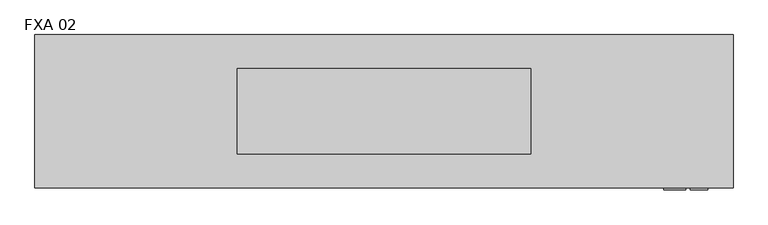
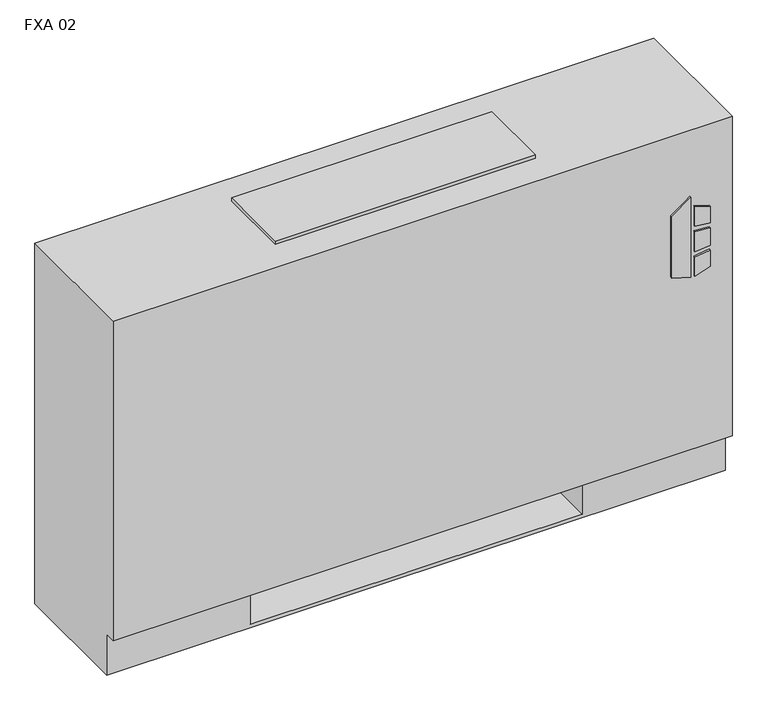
"""IFC4 building model written with IfcOpenShell, lengths in millimetres: proxy geometry, Vertical_Fan_Coil_Unit_-_FXA_-_IEC_-_4-Pipe_TS-FR_LH_2022 : FXA 02."""

from ifc_helpers import new_model, si_unit, point, frame, frame_2d, origin, place, context, project, spatial, polyline, circle_curve, trimmed, segment, composite_curve, outline, extrude, source, transform, mapped, element, save
from ifc_brep_helpers import plane_surface, revolved_surface, advanced_brep


def fxa_02_1721e887(model_context):
    return source(origin(), model_context, "Body", "SolidModel", [
        extrude(outline(polyline([(391.6086829, 569.9868862), (381.6606126, 602.1602728), (523.831537, 602.1602728), (500.8095309, 569.9868862), (391.6086829, 569.9868862)])), frame((0.0, 12.7, 0.0), z_axis=(0.0, 1.0, 0.0), x_axis=(0.0, 0.0, 1.0)), (0.0, 0.0, 1.0), 3.175),
        extrude(outline(polyline([(470.6079683, 608.9186058), (467.4055757, 635.0), (496.6344168, 635.0), (504.6988318, 608.9186058), (470.6079683, 608.9186058)])), frame((0.0, 12.7, 0.0), z_axis=(0.0, 1.0, 0.0), x_axis=(0.0, 0.0, 1.0)), (0.0, 0.0, 1.0), 3.175),
        extrude(outline(polyline([(418.7444414, 635.0), (415.0789404, 608.9186058), (381.6606126, 608.9186058), (390.2948498, 635.0), (418.7444414, 635.0)])), frame((0.0, 12.7, 0.0), z_axis=(0.0, 1.0, 0.0), x_axis=(0.0, 0.0, 1.0)), (0.0, 0.0, 1.0), 3.175),
        extrude(outline(polyline([(458.0596028, 635.0), (460.3414292, 608.9186058), (424.4038806, 608.9186058), (427.1451456, 635.0), (458.0596028, 635.0)])), frame((0.0, 12.7, 0.0), z_axis=(0.0, 1.0, 0.0), x_axis=(0.0, 0.0, 1.0)), (0.0, 0.0, 1.0), 3.175),
        extrude(outline(polyline([(552.45, 223.266), (552.45, 81.534), (431.8, 81.534), (431.8, 223.266), (552.45, 223.266)])), frame((0.0, 0.0, 327.025), z_axis=(0.0, 0.0, 1.0), x_axis=(1.0, 0.0, 0.0)), (0.0, 0.0, 1.0), 260.35),
        extrude(outline(composite_curve([segment(trimmed(circle_curve(frame_2d((-190.5, 130.175)), 9.525), [point((-200.025, 130.175))], [point((-180.975, 130.175))], False, "CARTESIAN"), True, "CONTINUOUS"), segment(trimmed(circle_curve(frame_2d((-190.5, 130.175)), 9.525), [point((-180.975, 130.175))], [point((-200.025, 130.175))], False, "CARTESIAN"), True, "CONTINUOUS")], self_intersect=False)), frame((0.0, 0.0, 101.6), z_axis=(0.0, 0.0, 1.0), x_axis=(1.0, 0.0, 0.0)), (0.0, 0.0, 1.0), 25.4),
        extrude(outline(polyline([(-285.75, 63.5), (-285.75, 196.85), (-127.0, 196.85), (-127.0, 63.5), (-285.75, 63.5)])), frame((0.0, 0.0, 127.0), z_axis=(0.0, 0.0, 1.0), x_axis=(1.0, 0.0, 0.0)), (0.0, 0.0, 1.0), 50.8),
        extrude(outline(composite_curve([segment(trimmed(circle_curve(frame_2d((117.475, 472.44)), 7.9375), [point((117.475, 480.3775))], [point((117.475, 464.5025))], False, "CARTESIAN"), True, "CONTINUOUS"), segment(trimmed(circle_curve(frame_2d((117.475, 472.44)), 7.9375), [point((117.475, 464.5025))], [point((117.475, 480.3775))], False, "CARTESIAN"), True, "CONTINUOUS")], self_intersect=False)), frame((-177.8, 0.0, 0.0), z_axis=(1.0, 0.0, 0.0), x_axis=(0.0, 1.0, 0.0)), (0.0, 0.0, 1.0), 50.8),
        extrude(outline(composite_curve([segment(trimmed(circle_curve(frame_2d((164.0586, 445.897)), 7.9375), [point((164.0586, 453.8345))], [point((164.0586, 437.9595))], False, "CARTESIAN"), True, "CONTINUOUS"), segment(trimmed(circle_curve(frame_2d((164.0586, 445.897)), 7.9375), [point((164.0586, 437.9595))], [point((164.0586, 453.8345))], False, "CARTESIAN"), True, "CONTINUOUS")], self_intersect=False)), frame((-177.8, 0.0, 0.0), z_axis=(1.0, 0.0, 0.0), x_axis=(0.0, 1.0, 0.0)), (0.0, 0.0, 1.0), 50.8),
        extrude(outline(composite_curve([segment(trimmed(circle_curve(frame_2d((130.175, 554.99)), 7.9502), [point((130.175, 562.9402))], [point((130.175, 547.0398))], False, "CARTESIAN"), True, "CONTINUOUS"), segment(trimmed(circle_curve(frame_2d((130.175, 554.99)), 7.9502), [point((130.175, 547.0398))], [point((130.175, 562.9402))], False, "CARTESIAN"), True, "CONTINUOUS")], self_intersect=False)), frame((-177.8, 0.0, 0.0), z_axis=(1.0, 0.0, 0.0), x_axis=(0.0, 1.0, 0.0)), (0.0, 0.0, 1.0), 50.8),
        extrude(outline(composite_curve([segment(trimmed(circle_curve(frame_2d((53.975, 416.56)), 7.9502), [point((53.975, 424.5102))], [point((53.975, 408.6098))], False, "CARTESIAN"), True, "CONTINUOUS"), segment(trimmed(circle_curve(frame_2d((53.975, 416.56)), 7.9502), [point((53.975, 408.6098))], [point((53.975, 424.5102))], False, "CARTESIAN"), True, "CONTINUOUS")], self_intersect=False)), frame((-177.8, 0.0, 0.0), z_axis=(1.0, 0.0, 0.0), x_axis=(0.0, 1.0, 0.0)), (0.0, 0.0, 1.0), 50.8),
        advanced_brep(
        [(673.1, 244.475, 641.35), (-368.3, 244.475, 641.35), (-368.3, 15.875, 641.35), (673.1, 15.875, 641.35), (-368.3, 244.475, 0.0), (673.1, 244.475, 0.0), (673.1, 34.925, 0.0), (-368.3, 34.925, 0.0), (431.8, 244.475, 73.025), (660.4, 244.475, 73.025), (660.4, 244.475, 628.65), (431.8, 244.475, 628.65), (431.8, 244.475, 414.8650565), (460.375, 244.475, 414.8650565), (460.375, 244.475, 385.2349435), (431.8, 244.475, 385.2349435), (431.8, 244.475, 287.3375), (460.375, 244.475, 287.3375), (460.375, 244.475, 258.7625), (431.8, 244.475, 258.7625), (431.8, 244.475, 141.2875), (460.375, 244.475, 141.2875), (460.375, 244.475, 112.7125), (431.8, 244.475, 112.7125), (-127.0, 244.475, 628.65), (-355.6, 244.475, 628.65), (-355.6, 244.475, 73.025), (-127.0, 244.475, 73.025), (-127.0, 244.475, 112.7125), (-155.575, 244.475, 112.7125), (-155.575, 244.475, 141.2875), (-127.0, 244.475, 141.2875), (-127.0, 244.475, 258.7625), (-155.575, 244.475, 258.7625), (-155.575, 244.475, 287.3375), (-127.0, 244.475, 287.3375), (-127.0, 244.475, 385.2349435), (-155.575, 244.475, 385.2349435), (-155.575, 244.475, 414.8650565), (-127.0, 244.475, 414.8650565), (450.0626, 244.475, 127.0), (438.9374, 244.475, 127.0), (450.0626, 244.475, 400.05), (438.9374, 244.475, 400.05), (450.0626, 244.475, 273.05), (438.9374, 244.475, 273.05), (-134.1374, 244.475, 127.0), (-145.2626, 244.475, 127.0), (-134.1374, 244.475, 273.05), (-145.2626, 244.475, 273.05), (-134.1374, 244.475, 400.05), (-145.2626, 244.475, 400.05), (-368.3, 34.925, 73.025), (-368.3, 15.875, 73.025), (673.1, 15.875, 73.025), (673.1, 34.925, 73.025), (-127.0, 34.925, 73.025), (-127.0, 219.075, 73.025), (431.8, 219.075, 73.025), (431.8, 34.925, 73.025), (431.8, 34.925, 6.35), (-127.0, 34.925, 6.35), (431.8, 41.275, 628.65), (660.4, 41.275, 628.65), (660.4, 41.275, 73.025), (431.8, 41.275, 73.025), (-127.0, 41.275, 628.65), (-127.0, 41.275, 73.025), (-355.6, 41.275, 73.025), (-355.6, 41.275, 628.65), (431.8, 219.075, 73.025), (431.8, 238.125, 112.7125), (431.8, 238.125, 141.2875), (431.8, 238.125, 258.7625), (431.8, 238.125, 287.3375), (431.8, 238.125, 385.2349435), (431.8, 238.125, 414.8650565), (-127.0, 219.075, 73.025), (-127.0, 238.125, 414.8650565), (-127.0, 238.125, 385.2349435), (-127.0, 238.125, 287.3375), (-127.0, 238.125, 258.7625), (-127.0, 238.125, 141.2875), (-127.0, 238.125, 112.7125), (-127.0, 219.075, 6.35), (431.8, 219.075, 6.35), (460.375, 238.125, 112.7125), (460.375, 238.125, 141.2875), (438.9374, 238.125, 127.0), (450.0626, 238.125, 127.0), (460.375, 238.125, 258.7625), (460.375, 238.125, 287.3375), (438.9374, 238.125, 273.05), (450.0626, 238.125, 273.05), (460.375, 238.125, 385.2349435), (460.375, 238.125, 414.8650565), (438.9374, 238.125, 400.05), (450.0626, 238.125, 400.05), (-155.575, 238.125, 141.2875), (-155.575, 238.125, 112.7125), (-145.2626, 238.125, 127.0), (-134.1374, 238.125, 127.0), (-155.575, 238.125, 287.3375), (-155.575, 238.125, 258.7625), (-145.2626, 238.125, 273.05), (-134.1374, 238.125, 273.05), (-155.575, 238.125, 414.8650565), (-155.575, 238.125, 385.2349435), (-145.2626, 238.125, 400.05), (-134.1374, 238.125, 400.05)],
        [
            (0, 1),
            (1, 2),
            (2, 3),
            (3, 0),
            (4, 5),
            (5, 6),
            (6, 7),
            (7, 4),
            (0, 5),
            (4, 1),
            (8, 9),
            (9, 10),
            (10, 11),
            (11, 12),
            (12, 13),
            (13, 14),
            (14, 15),
            (15, 16),
            (16, 17),
            (17, 18),
            (18, 19),
            (19, 20),
            (20, 21),
            (21, 22),
            (22, 23),
            (23, 8),
            (24, 25),
            (25, 26),
            (26, 27),
            (27, 28),
            (28, 29),
            (29, 30),
            (30, 31),
            (31, 32),
            (32, 33),
            (33, 34),
            (34, 35),
            (35, 36),
            (36, 37),
            (37, 38),
            (38, 39),
            (39, 24),
            (40, 41, circle_curve(frame((444.5, 244.475, 127.0), z_axis=(0.0, -1.0, 0.0), x_axis=(-1.0, 0.0, 0.0)), 5.5626)),
            (41, 40, circle_curve(frame((444.5, 244.475, 127.0), z_axis=(0.0, -1.0, 0.0), x_axis=(-1.0, 0.0, 0.0)), 5.5626)),
            (42, 43, circle_curve(frame((444.5, 244.475, 400.05), z_axis=(0.0, -1.0, 0.0), x_axis=(-1.0, 0.0, 0.0)), 5.5626)),
            (43, 42, circle_curve(frame((444.5, 244.475, 400.05), z_axis=(0.0, -1.0, 0.0), x_axis=(-1.0, 0.0, 0.0)), 5.5626)),
            (44, 45, circle_curve(frame((444.5, 244.475, 273.05), z_axis=(0.0, -1.0, 0.0), x_axis=(-1.0, 0.0, 0.0)), 5.5626)),
            (45, 44, circle_curve(frame((444.5, 244.475, 273.05), z_axis=(0.0, -1.0, 0.0), x_axis=(-1.0, 0.0, 0.0)), 5.5626)),
            (46, 47, circle_curve(frame((-139.7, 244.475, 127.0), z_axis=(0.0, -1.0, 0.0), x_axis=(-1.0, 0.0, 0.0)), 5.5626)),
            (47, 46, circle_curve(frame((-139.7, 244.475, 127.0), z_axis=(0.0, -1.0, 0.0), x_axis=(-1.0, 0.0, 0.0)), 5.5626)),
            (48, 49, circle_curve(frame((-139.7, 244.475, 273.05), z_axis=(0.0, -1.0, 0.0), x_axis=(-1.0, 0.0, 0.0)), 5.5626)),
            (49, 48, circle_curve(frame((-139.7, 244.475, 273.05), z_axis=(0.0, -1.0, 0.0), x_axis=(-1.0, 0.0, 0.0)), 5.5626)),
            (50, 51, circle_curve(frame((-139.7, 244.475, 400.05), z_axis=(0.0, -1.0, 0.0), x_axis=(-1.0, 0.0, 0.0)), 5.5626)),
            (51, 50, circle_curve(frame((-139.7, 244.475, 400.05), z_axis=(0.0, -1.0, 0.0), x_axis=(-1.0, 0.0, 0.0)), 5.5626)),
            (7, 52),
            (52, 53),
            (53, 2),
            (53, 54),
            (54, 3),
            (54, 55),
            (55, 6),
            (52, 56),
            (56, 57),
            (57, 58),
            (58, 59),
            (59, 55),
            (59, 60),
            (60, 61),
            (61, 56),
            (62, 63),
            (63, 64),
            (64, 65),
            (65, 62),
            (66, 67),
            (67, 68),
            (68, 69),
            (69, 66),
            (65, 70),
            (70, 8),
            (23, 71),
            (71, 72),
            (72, 20),
            (19, 73),
            (73, 74),
            (74, 16),
            (15, 75),
            (75, 76),
            (76, 12),
            (11, 62),
            (64, 9),
            (63, 10),
            (69, 25),
            (24, 66),
            (68, 26),
            (67, 77),
            (77, 27),
            (39, 78),
            (78, 79),
            (79, 36),
            (35, 80),
            (80, 81),
            (81, 32),
            (31, 82),
            (82, 83),
            (83, 28),
            (57, 84),
            (84, 85),
            (85, 58),
            (85, 60),
            (84, 61),
            (71, 86),
            (86, 87),
            (87, 72),
            (88, 89, circle_curve(frame((444.5, 238.125, 127.0), z_axis=(0.0, 1.0, 0.0), x_axis=(-1.0, 0.0, 0.0)), 5.5626)),
            (89, 88, circle_curve(frame((444.5, 238.125, 127.0), z_axis=(0.0, 1.0, 0.0), x_axis=(-1.0, 0.0, 0.0)), 5.5626)),
            (73, 90),
            (90, 91),
            (91, 74),
            (92, 93, circle_curve(frame((444.5, 238.125, 273.05), z_axis=(0.0, 1.0, 0.0), x_axis=(-1.0, 0.0, 0.0)), 5.5626)),
            (93, 92, circle_curve(frame((444.5, 238.125, 273.05), z_axis=(0.0, 1.0, 0.0), x_axis=(-1.0, 0.0, 0.0)), 5.5626)),
            (75, 94),
            (94, 95),
            (95, 76),
            (96, 97, circle_curve(frame((444.5, 238.125, 400.05), z_axis=(0.0, 1.0, 0.0), x_axis=(-1.0, 0.0, 0.0)), 5.5626)),
            (97, 96, circle_curve(frame((444.5, 238.125, 400.05), z_axis=(0.0, 1.0, 0.0), x_axis=(-1.0, 0.0, 0.0)), 5.5626)),
            (98, 99),
            (99, 83),
            (82, 98),
            (100, 101, circle_curve(frame((-139.7, 238.125, 127.0), z_axis=(0.0, 1.0, 0.0), x_axis=(-1.0, 0.0, 0.0)), 5.5626)),
            (101, 100, circle_curve(frame((-139.7, 238.125, 127.0), z_axis=(0.0, 1.0, 0.0), x_axis=(-1.0, 0.0, 0.0)), 5.5626)),
            (102, 103),
            (103, 81),
            (80, 102),
            (104, 105, circle_curve(frame((-139.7, 238.125, 273.05), z_axis=(0.0, 1.0, 0.0), x_axis=(-1.0, 0.0, 0.0)), 5.5626)),
            (105, 104, circle_curve(frame((-139.7, 238.125, 273.05), z_axis=(0.0, 1.0, 0.0), x_axis=(-1.0, 0.0, 0.0)), 5.5626)),
            (106, 107),
            (107, 79),
            (78, 106),
            (108, 109, circle_curve(frame((-139.7, 238.125, 400.05), z_axis=(0.0, 1.0, 0.0), x_axis=(-1.0, 0.0, 0.0)), 5.5626)),
            (109, 108, circle_curve(frame((-139.7, 238.125, 400.05), z_axis=(0.0, 1.0, 0.0), x_axis=(-1.0, 0.0, 0.0)), 5.5626)),
            (87, 21),
            (86, 22),
            (91, 17),
            (90, 18),
            (95, 13),
            (94, 14),
            (30, 98),
            (99, 29),
            (34, 102),
            (103, 33),
            (38, 106),
            (107, 37),
            (88, 41),
            (40, 89),
            (96, 43),
            (42, 97),
            (92, 45),
            (44, 93),
            (100, 47),
            (46, 101),
            (104, 49),
            (48, 105),
            (108, 51),
            (50, 109),
        ],
        [
            plane_surface(frame((-368.3, 244.475, 641.35), z_axis=(0.0, 0.0, 1.0), x_axis=(-1.0, 0.0, 0.0))),
            plane_surface(frame((-368.3, 244.475, 0.0), z_axis=(0.0, 0.0, -1.0), x_axis=(1.0, 0.0, 0.0))),
            plane_surface(frame((673.1, 244.475, 641.35), z_axis=(0.0, 1.0, 0.0), x_axis=(0.0, 0.0, -1.0))),
            plane_surface(frame((-368.3, 244.475, 641.35), z_axis=(-1.0, 0.0, 0.0), x_axis=(0.0, 0.0, -1.0))),
            plane_surface(frame((-368.3, 15.875, 641.35), z_axis=(0.0, -1.0, 0.0), x_axis=(0.0, 0.0, -1.0))),
            plane_surface(frame((673.1, 15.875, 641.35), z_axis=(1.0, 0.0, 0.0), x_axis=(0.0, 0.0, -1.0))),
            plane_surface(frame((-368.3, 15.875, 73.025), z_axis=(0.0, 0.0, -1.0), x_axis=(1.0, 0.0, 0.0))),
            plane_surface(frame((-368.3, 34.925, 73.025), z_axis=(0.0, -1.0, 0.0), x_axis=(1.0, 0.0, 0.0))),
            plane_surface(frame((431.8, 41.275, 628.65), z_axis=(0.0, 1.0, 0.0), x_axis=(0.0, 0.0, -1.0))),
            plane_surface(frame((431.8, 41.275, 628.65), z_axis=(1.0, 0.0, 0.0), x_axis=(0.0, 1.0, 0.0))),
            plane_surface(frame((431.8, 41.275, 73.025), z_axis=(0.0, 0.0, 1.0), x_axis=(0.0, 1.0, 0.0))),
            plane_surface(frame((660.4, 41.275, 73.025), z_axis=(-1.0, 0.0, 0.0), x_axis=(0.0, 1.0, 0.0))),
            plane_surface(frame((660.4, 41.275, 628.65), z_axis=(0.0, 0.0, -1.0), x_axis=(0.0, 1.0, 0.0))),
            plane_surface(frame((-127.0, 41.275, 628.65), z_axis=(0.0, 0.0, -1.0), x_axis=(0.0, 1.0, 0.0))),
            plane_surface(frame((-355.6, 41.275, 628.65), z_axis=(1.0, 0.0, 0.0), x_axis=(0.0, 1.0, 0.0))),
            plane_surface(frame((-355.6, 41.275, 73.025), z_axis=(0.0, 0.0, 1.0), x_axis=(0.0, 1.0, 0.0))),
            plane_surface(frame((-127.0, 41.275, 73.025), z_axis=(-1.0, 0.0, 0.0), x_axis=(0.0, 1.0, 0.0))),
            plane_surface(frame((431.8, 219.075, 73.025), z_axis=(0.0, -1.0, 0.0), x_axis=(0.0, 0.0, -1.0))),
            plane_surface(frame((431.8, 219.075, 73.025), z_axis=(-1.0, 0.0, 0.0), x_axis=(0.0, -1.0, 0.0))),
            plane_surface(frame((431.8, 219.075, 6.35), z_axis=(0.0, 0.0, 1.0), x_axis=(0.0, -1.0, 0.0))),
            plane_surface(frame((-127.0, 219.075, 6.35), z_axis=(1.0, 0.0, 0.0), x_axis=(0.0, -1.0, 0.0))),
            plane_surface(frame((460.375, 238.125, 141.2875), z_axis=(0.0, -1.0, 0.0), x_axis=(-1.0, 0.0, 0.0))),
            plane_surface(frame((431.8, 244.475, 141.2875), z_axis=(0.0, 0.0, 1.0), x_axis=(0.0, -1.0, 0.0))),
            plane_surface(frame((460.375, 244.475, 141.2875), z_axis=(1.0, 0.0, 0.0), x_axis=(0.0, -1.0, 0.0))),
            plane_surface(frame((460.375, 244.475, 112.7125), z_axis=(0.0, 0.0, -1.0), x_axis=(0.0, -1.0, 0.0))),
            plane_surface(frame((431.8, 244.475, 287.3375), z_axis=(0.0, 0.0, 1.0), x_axis=(0.0, -1.0, 0.0))),
            plane_surface(frame((460.375, 244.475, 287.3375), z_axis=(1.0, 0.0, 0.0), x_axis=(0.0, -1.0, 0.0))),
            plane_surface(frame((460.375, 244.475, 258.7625), z_axis=(0.0, 0.0, -1.0), x_axis=(0.0, -1.0, 0.0))),
            plane_surface(frame((431.8, 244.475, 414.8650565), z_axis=(0.0, 0.0, 1.0), x_axis=(0.0, -1.0, 0.0))),
            plane_surface(frame((460.375, 244.475, 414.8650565), z_axis=(1.0, 0.0, 0.0), x_axis=(0.0, -1.0, 0.0))),
            plane_surface(frame((460.375, 244.475, 385.2349435), z_axis=(0.0, 0.0, -1.0), x_axis=(0.0, -1.0, 0.0))),
            plane_surface(frame((-155.575, 244.475, 141.2875), z_axis=(0.0, 0.0, 1.0), x_axis=(0.0, -1.0, 0.0))),
            plane_surface(frame((-127.0, 244.475, 112.7125), z_axis=(0.0, 0.0, -1.0), x_axis=(0.0, -1.0, 0.0))),
            plane_surface(frame((-155.575, 244.475, 112.7125), z_axis=(-1.0, 0.0, 0.0), x_axis=(0.0, -1.0, 0.0))),
            plane_surface(frame((-155.575, 244.475, 287.3375), z_axis=(0.0, 0.0, 1.0), x_axis=(0.0, -1.0, 0.0))),
            plane_surface(frame((-127.0, 244.475, 258.7625), z_axis=(0.0, 0.0, -1.0), x_axis=(0.0, -1.0, 0.0))),
            plane_surface(frame((-155.575, 244.475, 258.7625), z_axis=(-1.0, 0.0, 0.0), x_axis=(0.0, -1.0, 0.0))),
            plane_surface(frame((-155.575, 244.475, 414.8650565), z_axis=(0.0, 0.0, 1.0), x_axis=(0.0, -1.0, 0.0))),
            plane_surface(frame((-127.0, 244.475, 385.2349435), z_axis=(0.0, 0.0, -1.0), x_axis=(0.0, -1.0, 0.0))),
            plane_surface(frame((-155.575, 244.475, 385.2349435), z_axis=(-1.0, 0.0, 0.0), x_axis=(0.0, -1.0, 0.0))),
            revolved_surface(polyline([(438.9374, 238.125, 127.0), (438.9374, 244.475, 127.0)]), (444.5, 244.475, 127.0), (0.0, -1.0, 0.0)),
            revolved_surface(polyline([(438.9374, 238.125, 400.05), (438.9374, 244.475, 400.05)]), (444.5, 244.475, 400.05), (0.0, -1.0, 0.0)),
            revolved_surface(polyline([(438.9374, 238.125, 273.05), (438.9374, 244.475, 273.05)]), (444.5, 244.475, 273.05), (0.0, -1.0, 0.0)),
            revolved_surface(polyline([(-145.2626, 238.125, 127.0), (-145.2626, 244.475, 127.0)]), (-139.7, 244.475, 127.0), (0.0, -1.0, 0.0)),
            revolved_surface(polyline([(-145.2626, 238.125, 273.05), (-145.2626, 244.475, 273.05)]), (-139.7, 244.475, 273.05), (0.0, -1.0, 0.0)),
            revolved_surface(polyline([(-145.2626, 238.125, 400.05), (-145.2626, 244.475, 400.05)]), (-139.7, 244.475, 400.05), (0.0, -1.0, 0.0)),
        ],
        [
            (0, [[1, 2, 3, 4]]),
            (1, [[5, 6, 7, 8]]),
            (2, [[-1, 9, -5, 10], [11, 12, 13, 14, 15, 16, 17, 18, 19, 20, 21, 22, 23, 24, 25, 26], [27, 28, 29, 30, 31, 32, 33, 34, 35, 36, 37, 38, 39, 40, 41, 42], [43, 44], [45, 46], [47, 48], [49, 50], [51, 52], [53, 54]]),
            (3, [[-2, -10, -8, 55, 56, 57]]),
            (4, [[-3, -57, 58, 59]]),
            (5, [[-4, -59, 60, 61, -6, -9]]),
            (6, [[-56, 62, 63, 64, 65, 66, -60, -58]]),
            (7, [[-7, -61, -66, 67, 68, 69, -62, -55]]),
            (8, [[70, 71, 72, 73]]),
            (8, [[74, 75, 76, 77]]),
            (9, [[-73, 78, 79, -26, 80, 81, 82, -22, 83, 84, 85, -18, 86, 87, 88, -14, 89]]),
            (10, [[-72, 90, -11, -79, -78]]),
            (11, [[-71, 91, -12, -90]]),
            (12, [[-70, -89, -13, -91]]),
            (13, [[-77, 92, -27, 93]]),
            (14, [[-76, 94, -28, -92]]),
            (15, [[-75, 95, 96, -29, -94]]),
            (16, [[-74, -93, -42, 97, 98, 99, -38, 100, 101, 102, -34, 103, 104, 105, -30, -96, -95]]),
            (17, [[-64, 106, 107, 108]]),
            (18, [[-108, 109, -67, -65]]),
            (19, [[-107, 110, -68, -109]]),
            (20, [[-106, -63, -69, -110]]),
            (21, [[111, 112, 113, -81], [114, 115]]),
            (21, [[116, 117, 118, -84], [119, 120]]),
            (21, [[121, 122, 123, -87], [124, 125]]),
            (21, [[126, 127, -104, 128], [129, 130]]),
            (21, [[131, 132, -101, 133], [134, 135]]),
            (21, [[136, 137, -98, 138], [139, 140]]),
            (22, [[-113, 141, -23, -82]]),
            (23, [[-112, 142, -24, -141]]),
            (24, [[-111, -80, -25, -142]]),
            (25, [[-118, 143, -19, -85]]),
            (26, [[-117, 144, -20, -143]]),
            (27, [[-116, -83, -21, -144]]),
            (28, [[-123, 145, -15, -88]]),
            (29, [[-122, 146, -16, -145]]),
            (30, [[-121, -86, -17, -146]]),
            (31, [[-128, -103, -33, 147]]),
            (32, [[-127, 148, -31, -105]]),
            (33, [[-126, -147, -32, -148]]),
            (34, [[-133, -100, -37, 149]]),
            (35, [[-132, 150, -35, -102]]),
            (36, [[-131, -149, -36, -150]]),
            (37, [[-138, -97, -41, 151]]),
            (38, [[-137, 152, -39, -99]]),
            (39, [[-136, -151, -40, -152]]),
            (40, [[153, -43, 154, -114]]),
            (40, [[-153, -115, -154, -44]]),
            (41, [[155, -45, 156, -124]]),
            (41, [[-155, -125, -156, -46]]),
            (42, [[157, -47, 158, -119]]),
            (42, [[-157, -120, -158, -48]]),
            (43, [[159, -49, 160, -129]]),
            (43, [[-159, -130, -160, -50]]),
            (44, [[161, -51, 162, -134]]),
            (44, [[-161, -135, -162, -52]]),
            (45, [[163, -53, 164, -139]]),
            (45, [[-163, -140, -164, -54]]),
        ],
    ),
        extrude(outline(polyline([(371.475, 193.675), (371.475, 66.675), (-66.675, 66.675), (-66.675, 193.675), (371.475, 193.675)])), frame((0.0, 0.0, 641.35), z_axis=(0.0, 0.0, 1.0), x_axis=(1.0, 0.0, 0.0)), (0.0, 0.0, 1.0), 6.35),
    ])


if __name__ == "__main__":
    model = new_model("IFC4")
    model_context = context("Model", 3, world=origin())
    ifc_project = project(units=[si_unit("LENGTHUNIT", "METRE", prefix="MILLI")], contexts=[model_context])
    site = spatial("IfcSite", under=ifc_project)
    building = spatial("IfcBuilding", under=site)
    placement = place(None, origin())
    fxa_02_shape = fxa_02_1721e887(model_context)
    element("IfcBuildingElementProxy", 1, Name="Vertical_Fan_Coil_Unit_-_FXA_-_IEC_-_4-Pipe_TS-FR_LH_2022 : FXA 02", ObjectType="Vertical_Fan_Coil_Unit_-_FXA_-_IEC_-_4-Pipe_TS-FR_LH_2022 : FXA 02", at=placement, inside=building, context=model_context, shape_type="MappedRepresentation", body=[
        mapped(fxa_02_shape, transform((0.0, 0.0, 0.0), x_axis=(1.0, 0.0, 0.0), y_axis=(0.0, 1.0, 0.0), z_axis=(0.0, 0.0, 1.0))),
    ])
    save(model, "model.ifc")
